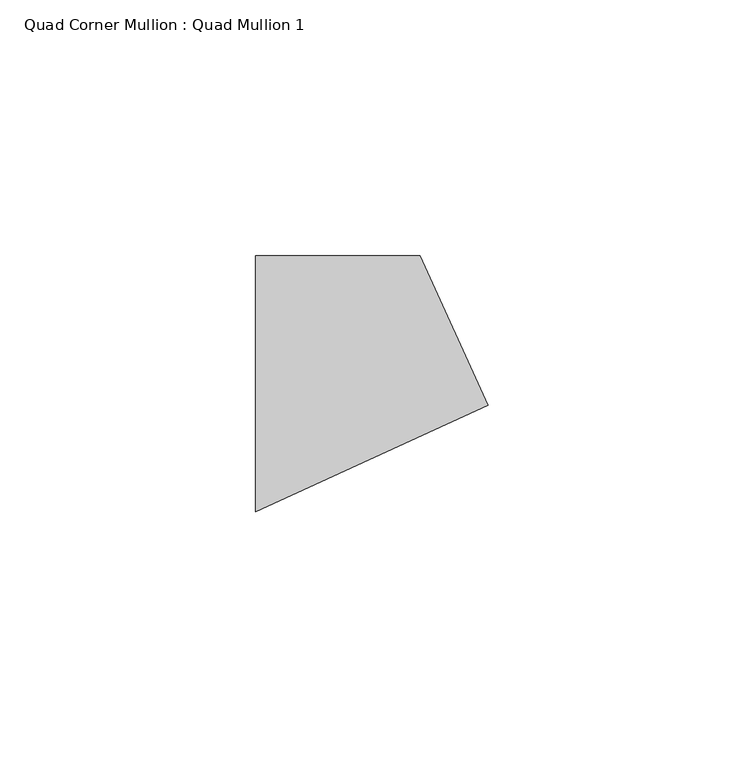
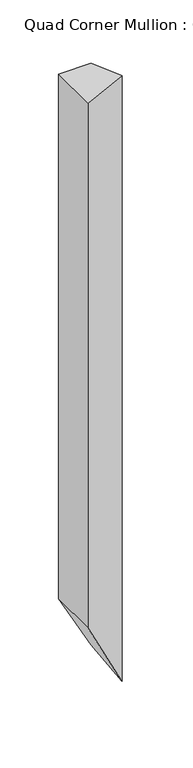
"""IFC4 building model written with IfcOpenShell, lengths in millimetres: member geometry, Quad Corner Mullion : Quad Mullion 1."""

from ifc_helpers import new_model, si_unit, origin, place, context, project, spatial, faceted_brep, source, transform, mapped, element, save


def quad_corner_mullion_quad_mullion_1_a1aabb3d(model_context):
    return source(origin(), model_context, "Body", "Brep", [
        faceted_brep([(29.4125559, -4.1926582, 0.0), (16.0523154, 25.0, 0.0), (-16.0523154, 25.0, 0.0), (-16.0523154, -25.0, 0.0), (29.4125559, -4.1926582, -629.3090516), (16.0523154, 25.0, -604.6399275), (-16.0523154, 25.0, -545.3600725), (-16.0523154, -25.0, -545.3600725)], [[[0, 1, 2, 3]], [[1, 0, 4, 5]], [[2, 1, 5, 6]], [[3, 2, 6, 7]], [[0, 3, 7, 4]], [[4, 7, 6, 5]]]),
    ])


if __name__ == "__main__":
    model = new_model("IFC4")
    model_context = context("Model", 3, world=origin())
    ifc_project = project(units=[si_unit("LENGTHUNIT", "METRE", prefix="MILLI")], contexts=[model_context])
    site = spatial("IfcSite", under=ifc_project)
    building = spatial("IfcBuilding", under=site)
    placement = place(None, origin())
    quad_corner_mullion_quad_mullion_1_shape = quad_corner_mullion_quad_mullion_1_a1aabb3d(model_context)
    element("IfcMember", 1, ObjectType="Quad Corner Mullion : Quad Mullion 1", at=placement, inside=building, context=model_context, shape_type="MappedRepresentation", body=[
        mapped(quad_corner_mullion_quad_mullion_1_shape, transform((0.0, 0.0, 0.0), x_axis=(1.0, 0.0, 0.0), y_axis=(0.0, 1.0, 0.0), z_axis=(0.0, 0.0, 1.0))),
    ])
    save(model, "model.ifc")
